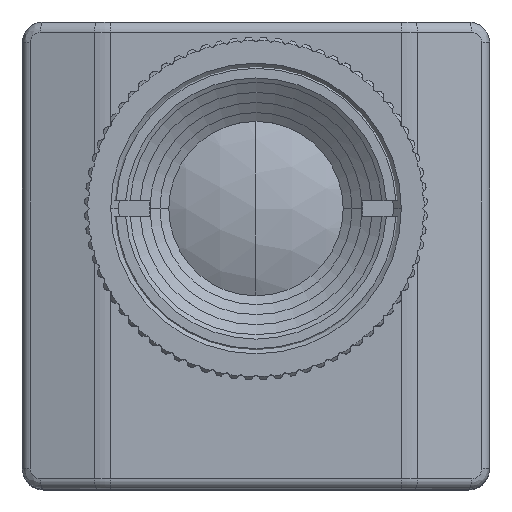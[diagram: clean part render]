
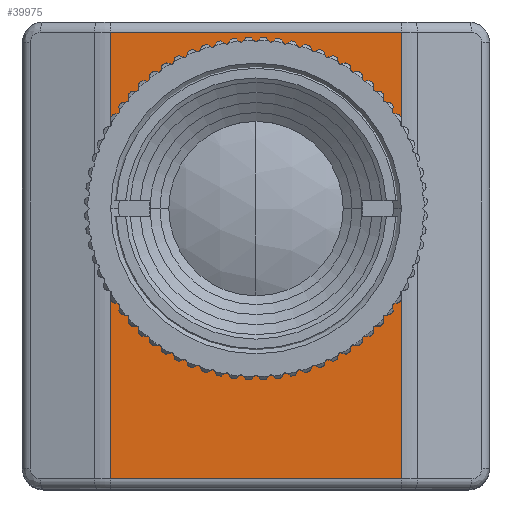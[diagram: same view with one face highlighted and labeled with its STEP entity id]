
A CAD part, top view. The second image highlights one B-rep face of the part: STEP entity #39975.
In plain terms, the highlighted planar face has unit normal (0, 0, 1).
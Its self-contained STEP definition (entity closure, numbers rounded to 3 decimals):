
#478 = EDGE_LOOP ( 'NONE', ( #41284, #3095, #10120, #16216 ) ) ;
#818 = CARTESIAN_POINT ( 'NONE',  ( 0., 0., 0. ) ) ;
#1245 = CIRCLE ( 'NONE', #17815, 13.55 ) ;
#1468 = EDGE_CURVE ( 'NONE', #12874, #55292, #7558, .T. ) ;
#3095 = ORIENTED_EDGE ( 'NONE', *, *, #64757, .T. ) ;
#3790 = CARTESIAN_POINT ( 'NONE',  ( -20.5, 17., 0. ) ) ;
#4284 = CARTESIAN_POINT ( 'NONE',  ( 14., 17., 0. ) ) ;
#4660 = CARTESIAN_POINT ( 'NONE',  ( -13.55, 0., 0. ) ) ;
#6639 = DIRECTION ( 'NONE',  ( 1., 0., 0. ) ) ;
#7558 = LINE ( 'NONE', #64607, #68208 ) ;
#7770 = CARTESIAN_POINT ( 'NONE',  ( 13.55, 0., 0. ) ) ;
#8348 = VECTOR ( 'NONE', #69311, 1000. ) ;
#8820 = LINE ( 'NONE', #73634, #37332 ) ;
#10094 = LINE ( 'NONE', #29392, #8348 ) ;
#10120 = ORIENTED_EDGE ( 'NONE', *, *, #50115, .F. ) ;
#12874 = VERTEX_POINT ( 'NONE', #29633 ) ;
#13572 = DIRECTION ( 'NONE',  ( 1., 0., 0. ) ) ;
#15174 = EDGE_CURVE ( 'NONE', #16018, #67075, #1245, .T. ) ;
#16018 = VERTEX_POINT ( 'NONE', #4660 ) ;
#16216 = ORIENTED_EDGE ( 'NONE', *, *, #28951, .T. ) ;
#16767 = DIRECTION ( 'NONE',  ( 0., 1., 0. ) ) ;
#17815 = AXIS2_PLACEMENT_3D ( 'NONE', #818, #40725, #6639 ) ;
#19195 = LINE ( 'NONE', #3790, #62962 ) ;
#23286 = DIRECTION ( 'NONE',  ( 0., 0., -1. ) ) ;
#24690 = DIRECTION ( 'NONE',  ( 0., 1., 0. ) ) ;
#25937 = EDGE_CURVE ( 'NONE', #67075, #16018, #72064, .T. ) ;
#28025 = FACE_OUTER_BOUND ( 'NONE', #478, .T. ) ;
#28951 = EDGE_CURVE ( 'NONE', #37406, #12874, #10094, .T. ) ;
#29392 = CARTESIAN_POINT ( 'NONE',  ( -20.5, -26., 0. ) ) ;
#29633 = CARTESIAN_POINT ( 'NONE',  ( 14., -26., 0. ) ) ;
#34872 = CARTESIAN_POINT ( 'NONE',  ( -14., 17., 0. ) ) ;
#37332 = VECTOR ( 'NONE', #16767, 1000. ) ;
#37406 = VERTEX_POINT ( 'NONE', #45419 ) ;
#39975 = ADVANCED_FACE ( 'NONE', ( #73571, #28025 ), #42015, .T. ) ;
#40725 = DIRECTION ( 'NONE',  ( 0., 0., -1. ) ) ;
#41284 = ORIENTED_EDGE ( 'NONE', *, *, #1468, .T. ) ;
#42015 = PLANE ( 'NONE',  #72051 ) ;
#43620 = EDGE_LOOP ( 'NONE', ( #59538, #61577 ) ) ;
#45419 = CARTESIAN_POINT ( 'NONE',  ( -14., -26., 0. ) ) ;
#47363 = AXIS2_PLACEMENT_3D ( 'NONE', #57429, #23286, #63214 ) ;
#47762 = DIRECTION ( 'NONE',  ( 0., 0., 1. ) ) ;
#50115 = EDGE_CURVE ( 'NONE', #37406, #62069, #8820, .T. ) ;
#55292 = VERTEX_POINT ( 'NONE', #4284 ) ;
#57429 = CARTESIAN_POINT ( 'NONE',  ( 0., 0., 0. ) ) ;
#59538 = ORIENTED_EDGE ( 'NONE', *, *, #25937, .T. ) ;
#61134 = DIRECTION ( 'NONE',  ( -1., 0., 0. ) ) ;
#61577 = ORIENTED_EDGE ( 'NONE', *, *, #15174, .T. ) ;
#62069 = VERTEX_POINT ( 'NONE', #34872 ) ;
#62962 = VECTOR ( 'NONE', #61134, 1000. ) ;
#63214 = DIRECTION ( 'NONE',  ( 1., 0., 0. ) ) ;
#64488 = CARTESIAN_POINT ( 'NONE',  ( -20.5, 16., 0. ) ) ;
#64607 = CARTESIAN_POINT ( 'NONE',  ( 14., -27.001, 0. ) ) ;
#64757 = EDGE_CURVE ( 'NONE', #55292, #62069, #19195, .T. ) ;
#67075 = VERTEX_POINT ( 'NONE', #7770 ) ;
#68208 = VECTOR ( 'NONE', #24690, 1000. ) ;
#69311 = DIRECTION ( 'NONE',  ( 1., 0., 0. ) ) ;
#72051 = AXIS2_PLACEMENT_3D ( 'NONE', #64488, #47762, #13572 ) ;
#72064 = CIRCLE ( 'NONE', #47363, 13.55 ) ;
#73571 = FACE_BOUND ( 'NONE', #43620, .T. ) ;
#73634 = CARTESIAN_POINT ( 'NONE',  ( -14., 18.001, 0. ) ) ;
